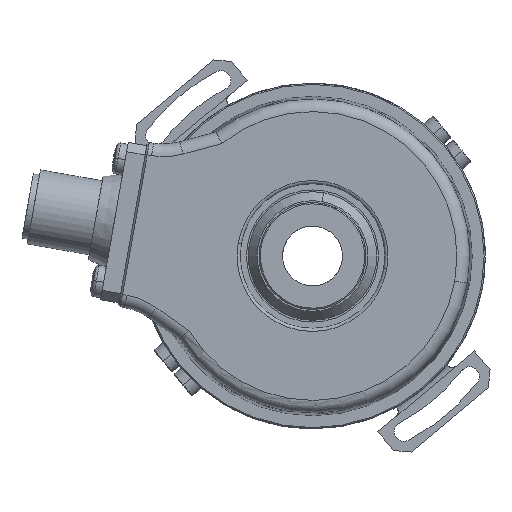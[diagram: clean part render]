
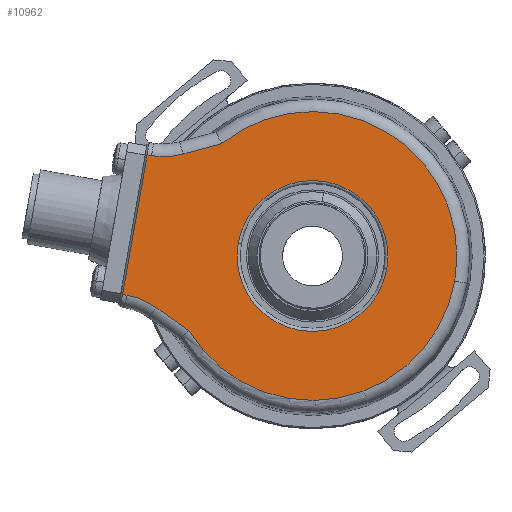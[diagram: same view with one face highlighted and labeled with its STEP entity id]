
A CAD part, left-side view. The second image highlights one B-rep face of the part: STEP entity #10962.
In plain terms, the highlighted planar face has unit normal (-1, 0, 0).
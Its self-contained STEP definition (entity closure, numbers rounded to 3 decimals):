
#29 = VECTOR ( 'NONE', #12089, 1000. ) ;
#126 = CIRCLE ( 'NONE', #12682, 12. ) ;
#215 = DIRECTION ( 'NONE',  ( 1., 0., 0. ) ) ;
#234 = VERTEX_POINT ( 'NONE', #14370 ) ;
#285 = VERTEX_POINT ( 'NONE', #4561 ) ;
#2943 = CARTESIAN_POINT ( 'NONE',  ( -21., 0., 0. ) ) ;
#3604 = VERTEX_POINT ( 'NONE', #22580 ) ;
#4337 = CARTESIAN_POINT ( 'NONE',  ( -21., 19.677, -11.854 ) ) ;
#4561 = CARTESIAN_POINT ( 'NONE',  ( -21., -11.818, -2.084 ) ) ;
#4810 = CARTESIAN_POINT ( 'NONE',  ( -21., 23.715, 27.806 ) ) ;
#4864 = CARTESIAN_POINT ( 'NONE',  ( -21., 30.212, -6.096 ) ) ;
#6249 = EDGE_CURVE ( 'NONE', #3604, #25204, #14293, .T. ) ;
#6795 = CARTESIAN_POINT ( 'NONE',  ( -21., 30.213, -6.101 ) ) ;
#6810 = EDGE_CURVE ( 'NONE', #285, #12255, #19224, .T. ) ;
#6910 = DIRECTION ( 'NONE',  ( 0., 0.174, -0.985 ) ) ;
#6940 = DIRECTION ( 'NONE',  ( 0., -0.985, -0.174 ) ) ;
#7227 = PLANE ( 'NONE',  #19944 ) ;
#7391 = CARTESIAN_POINT ( 'NONE',  ( -21., 0., 0. ) ) ;
#7498 = DIRECTION ( 'NONE',  ( 0., -0.819, -0.574 ) ) ;
#7813 = CARTESIAN_POINT ( 'NONE',  ( -21., 2.243, -11.538 ) ) ;
#8050 = LINE ( 'NONE', #4864, #13711 ) ;
#8200 = CARTESIAN_POINT ( 'NONE',  ( -21., 0., 0. ) ) ;
#8620 = CARTESIAN_POINT ( 'NONE',  ( -21., 0., 0. ) ) ;
#8790 = EDGE_CURVE ( 'NONE', #12255, #285, #25213, .T. ) ;
#9132 = FACE_OUTER_BOUND ( 'NONE', #17078, .T. ) ;
#9520 = DIRECTION ( 'NONE',  ( 0., -0.985, -0.174 ) ) ;
#9625 = CIRCLE ( 'NONE', #11335, 22.972 ) ;
#9702 = CARTESIAN_POINT ( 'NONE',  ( -21., 25.592, 15.954 ) ) ;
#9911 = DIRECTION ( 'NONE',  ( 1., 0., 0. ) ) ;
#10347 = DIRECTION ( 'NONE',  ( 0., -0.985, -0.174 ) ) ;
#10404 = DIRECTION ( 'NONE',  ( 0., 0.966, -0.259 ) ) ;
#10442 = AXIS2_PLACEMENT_3D ( 'NONE', #8620, #23458, #10765 ) ;
#10677 = EDGE_CURVE ( 'NONE', #25978, #27218, #21473, .T. ) ;
#10765 = DIRECTION ( 'NONE',  ( 0., -0.985, -0.174 ) ) ;
#10962 = ADVANCED_FACE ( 'NONE', ( #14151, #9132 ), #7227, .F. ) ;
#11179 = CARTESIAN_POINT ( 'NONE',  ( -21., -22.623, -3.989 ) ) ;
#11180 = ORIENTED_EDGE ( 'NONE', *, *, #6249, .T. ) ;
#11335 = AXIS2_PLACEMENT_3D ( 'NONE', #7391, #22250, #9520 ) ;
#11518 = DIRECTION ( 'NONE',  ( 0., -0.985, -0.174 ) ) ;
#11574 = EDGE_CURVE ( 'NONE', #13421, #22709, #126, .T. ) ;
#11737 = LINE ( 'NONE', #19227, #16053 ) ;
#11979 = LINE ( 'NONE', #13938, #13996 ) ;
#12089 = DIRECTION ( 'NONE',  ( 0., -0.982, -0.191 ) ) ;
#12255 = VERTEX_POINT ( 'NONE', #15680 ) ;
#12303 = ORIENTED_EDGE ( 'NONE', *, *, #8790, .T. ) ;
#12500 = ORIENTED_EDGE ( 'NONE', *, *, #20862, .T. ) ;
#12682 = AXIS2_PLACEMENT_3D ( 'NONE', #22632, #9911, #24765 ) ;
#12785 = EDGE_CURVE ( 'NONE', #234, #19925, #8050, .T. ) ;
#12976 = CARTESIAN_POINT ( 'NONE',  ( -21., 0., 0. ) ) ;
#13421 = VERTEX_POINT ( 'NONE', #26681 ) ;
#13711 = VECTOR ( 'NONE', #6910, 1000. ) ;
#13759 = ORIENTED_EDGE ( 'NONE', *, *, #17400, .T. ) ;
#13805 = ORIENTED_EDGE ( 'NONE', *, *, #25778, .T. ) ;
#13938 = CARTESIAN_POINT ( 'NONE',  ( -21., 19.944, -11.667 ) ) ;
#13996 = VECTOR ( 'NONE', #7498, 1000. ) ;
#14151 = FACE_BOUND ( 'NONE', #14834, .T. ) ;
#14293 = CIRCLE ( 'NONE', #16289, 12. ) ;
#14370 = CARTESIAN_POINT ( 'NONE',  ( -21., 26.304, 16.067 ) ) ;
#14553 = CARTESIAN_POINT ( 'NONE',  ( -21., 14.436, 17.869 ) ) ;
#14672 = CARTESIAN_POINT ( 'NONE',  ( -21., 20.609, 16.215 ) ) ;
#14795 = AXIS2_PLACEMENT_3D ( 'NONE', #8200, #23054, #10347 ) ;
#14834 = EDGE_LOOP ( 'NONE', ( #24634, #12303 ) ) ;
#14969 = DIRECTION ( 'NONE',  ( 0., 0.988, 0.156 ) ) ;
#15090 = DIRECTION ( 'NONE',  ( 0., -0.985, -0.174 ) ) ;
#15680 = CARTESIAN_POINT ( 'NONE',  ( -21., 11.818, 2.084 ) ) ;
#16053 = VECTOR ( 'NONE', #14969, 1000. ) ;
#16289 = AXIS2_PLACEMENT_3D ( 'NONE', #4810, #19699, #6940 ) ;
#17078 = EDGE_LOOP ( 'NONE', ( #22252, #22724, #13805, #22657, #22210, #21402, #13759, #12500, #11180 ) ) ;
#17400 = EDGE_CURVE ( 'NONE', #27218, #23551, #9625, .T. ) ;
#18993 = LINE ( 'NONE', #7813, #29 ) ;
#19224 = CIRCLE ( 'NONE', #10442, 12. ) ;
#19227 = CARTESIAN_POINT ( 'NONE',  ( -21., -1.839, 11.609 ) ) ;
#19699 = DIRECTION ( 'NONE',  ( 1., 0., 0. ) ) ;
#19925 = VERTEX_POINT ( 'NONE', #6795 ) ;
#19944 = AXIS2_PLACEMENT_3D ( 'NONE', #2943, #24228, #11518 ) ;
#20157 = LINE ( 'NONE', #14672, #25799 ) ;
#20455 = AXIS2_PLACEMENT_3D ( 'NONE', #12976, #215, #15090 ) ;
#20862 = EDGE_CURVE ( 'NONE', #23551, #3604, #20157, .T. ) ;
#21402 = ORIENTED_EDGE ( 'NONE', *, *, #10677, .T. ) ;
#21473 = CIRCLE ( 'NONE', #14795, 22.972 ) ;
#22210 = ORIENTED_EDGE ( 'NONE', *, *, #26255, .T. ) ;
#22250 = DIRECTION ( 'NONE',  ( -1., 0., 0. ) ) ;
#22252 = ORIENTED_EDGE ( 'NONE', *, *, #24455, .T. ) ;
#22580 = CARTESIAN_POINT ( 'NONE',  ( -21., 20.609, 16.215 ) ) ;
#22632 = CARTESIAN_POINT ( 'NONE',  ( -21., 31.795, -18.018 ) ) ;
#22657 = ORIENTED_EDGE ( 'NONE', *, *, #11574, .T. ) ;
#22709 = VERTEX_POINT ( 'NONE', #25462 ) ;
#22724 = ORIENTED_EDGE ( 'NONE', *, *, #12785, .T. ) ;
#23054 = DIRECTION ( 'NONE',  ( -1., 0., 0. ) ) ;
#23458 = DIRECTION ( 'NONE',  ( 1., 0., 0. ) ) ;
#23551 = VERTEX_POINT ( 'NONE', #14553 ) ;
#24228 = DIRECTION ( 'NONE',  ( 1., 0., 0. ) ) ;
#24455 = EDGE_CURVE ( 'NONE', #25204, #234, #11737, .T. ) ;
#24634 = ORIENTED_EDGE ( 'NONE', *, *, #6810, .T. ) ;
#24765 = DIRECTION ( 'NONE',  ( 0., -0.985, -0.174 ) ) ;
#25204 = VERTEX_POINT ( 'NONE', #9702 ) ;
#25213 = CIRCLE ( 'NONE', #20455, 12. ) ;
#25462 = CARTESIAN_POINT ( 'NONE',  ( -21., 24.912, -8.189 ) ) ;
#25778 = EDGE_CURVE ( 'NONE', #19925, #13421, #18993, .T. ) ;
#25799 = VECTOR ( 'NONE', #10404, 1000. ) ;
#25978 = VERTEX_POINT ( 'NONE', #4337 ) ;
#26255 = EDGE_CURVE ( 'NONE', #22709, #25978, #11979, .T. ) ;
#26681 = CARTESIAN_POINT ( 'NONE',  ( -21., 29.505, -6.239 ) ) ;
#27218 = VERTEX_POINT ( 'NONE', #11179 ) ;
